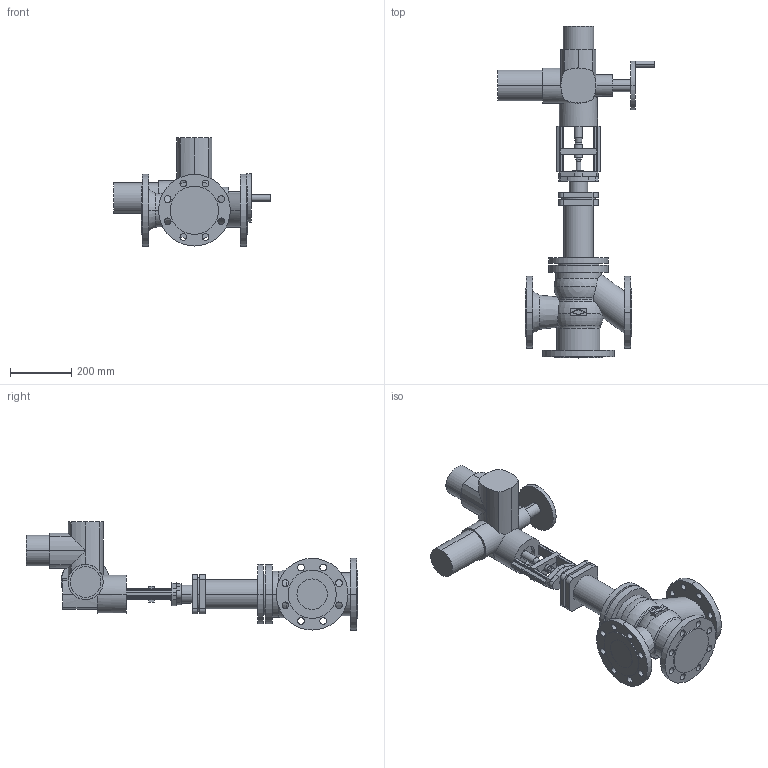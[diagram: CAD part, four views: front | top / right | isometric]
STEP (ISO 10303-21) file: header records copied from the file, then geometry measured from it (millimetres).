
FILE_DESCRIPTION(('OneSpaceDesigner STEP Export'),'2;1');
FILE_NAME('c000003210.stp','2007-01-25T12:00:55',(''),(''),'OneSpace Designer STEP processor for AP214 (Solid Model)','OneSpace Designer 14.00B 27-May-2006 (C) CoCreate Software GmbH','');
FILE_SCHEMA(('AUTOMOTIVE_DESIGN { 1 0 10303 214 1 1 1 1 }'));
Length unit declared in the file: millimetre
Products named in the file (2): 1; 2
Bounding box: 514 x 1087.7 x 354.5 mm (x, y, z)
Volume: 21076115.5 mm3; surface area: 1133196.8 mm2
Topology: 2 solids, 2 shells, 345 faces, 899 edges, 577 vertices
Faces by surface type: cylinder 180, plane 143, torus 10, cone 8, sphere 4
Entity records: 10039 total; most frequent: CARTESIAN_POINT 2147, ORIENTED_EDGE 1790, DIRECTION 1450, EDGE_CURVE 895, VERTEX_POINT 577, AXIS2_PLACEMENT_3D 500, VECTOR 450, LINE 450
